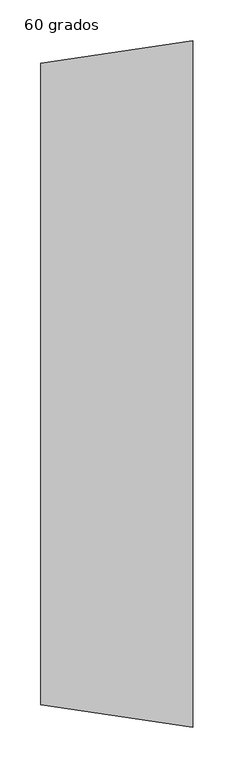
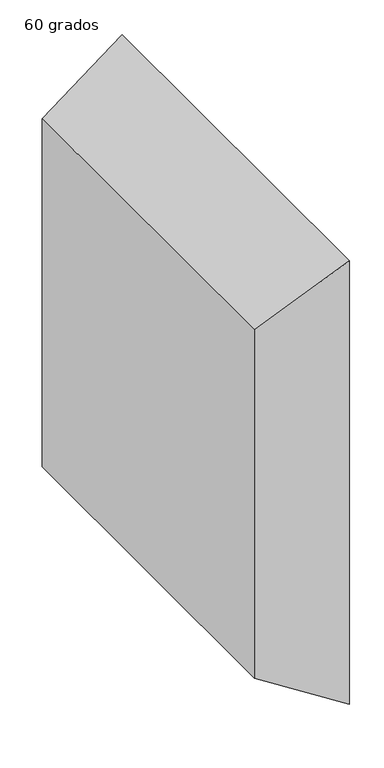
"""IFC4 building model written with IfcOpenShell, lengths in millimetres: duct fitting geometry, M_Transición rectangular - Ángulo : 60 grados."""

from ifc_helpers import new_model, si_unit, origin, place, context, project, spatial, faceted_brep, source, transform, mapped, element, save


def duct_fitting_60_grados_4d9d5c32(model_context):
    return source(origin(), model_context, "Body", "Brep", [
        faceted_brep([(186.1954618, -420.0, 500.0), (186.1954618, -420.0, -500.0), (186.1954618, 420.0, -500.0), (186.1954618, 420.0, 500.0), (0.0, -392.5, 392.5), (0.0, 392.5, 392.5), (0.0, 392.5, -392.5), (0.0, -392.5, -392.5)], [[[0, 1, 2, 3]], [[4, 5, 6, 7]], [[4, 7, 1, 0]], [[7, 6, 2, 1]], [[6, 5, 3, 2]], [[5, 4, 0, 3]]]),
    ])


if __name__ == "__main__":
    model = new_model("IFC4")
    model_context = context("Model", 3, world=origin())
    ifc_project = project(units=[si_unit("LENGTHUNIT", "METRE", prefix="MILLI")], contexts=[model_context])
    site = spatial("IfcSite", under=ifc_project)
    building = spatial("IfcBuilding", under=site)
    placement = place(None, origin())
    duct_fitting_60_grados_shape = duct_fitting_60_grados_4d9d5c32(model_context)
    element("IfcDuctFitting", 1, ObjectType="M_Transición rectangular - Ángulo : 60 grados", at=placement, inside=building, context=model_context, shape_type="MappedRepresentation", body=[
        mapped(duct_fitting_60_grados_shape, transform((0.0, 0.0, 0.0), x_axis=(1.0, 0.0, 0.0), y_axis=(0.0, 1.0, 0.0), z_axis=(0.0, 0.0, 1.0))),
    ])
    save(model, "model.ifc")
